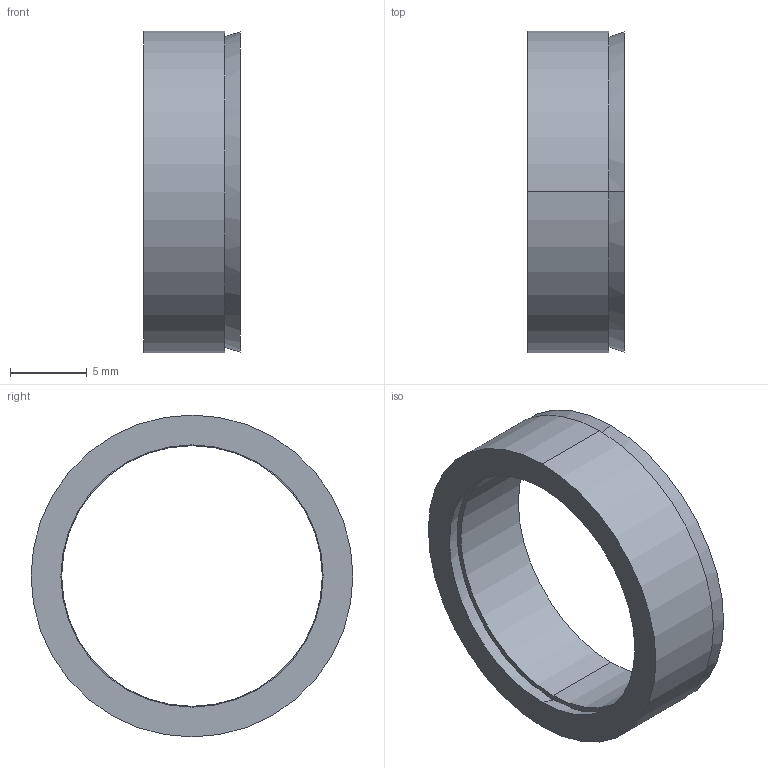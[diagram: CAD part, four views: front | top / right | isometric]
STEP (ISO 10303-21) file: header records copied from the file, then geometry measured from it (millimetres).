
FILE_DESCRIPTION (( 'STEP AP203' ), '1' );
FILE_NAME ('R-17-21.STEP', '2017-11-06T01:58:06', ( 'MYCOM' ), ( '' ), 'SwSTEP 2.0', 'SolidWorks 2015', '' );
FILE_SCHEMA (( 'CONFIG_CONTROL_DESIGN' ));
Length unit declared in the file: millimetre
Products named in the file (1): R-17-21
Bounding box: 6.3 x 21 x 21 mm (x, y, z)
Surface area: 1567.9 mm2 (no closed solid volume)
Topology: 0 solids, 2 shells, 12 faces, 24 edges, 16 vertices
Faces by surface type: cone 4, cylinder 4, plane 4
Entity records: 406 total; most frequent: DIRECTION 66, CARTESIAN_POINT 53, ORIENTED_EDGE 48, AXIS2_PLACEMENT_3D 29, EDGE_CURVE 24, EDGE_LOOP 16, VERTEX_POINT 16, CIRCLE 16
